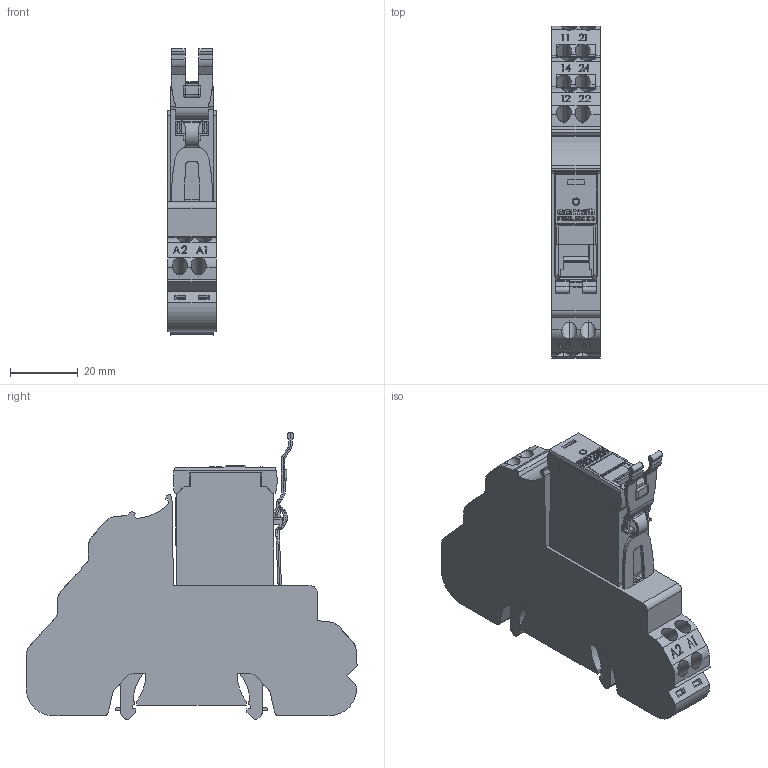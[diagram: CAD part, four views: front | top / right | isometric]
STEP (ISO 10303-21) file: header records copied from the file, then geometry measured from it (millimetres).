
FILE_DESCRIPTION (( 'STEP AP214' ), '1' );
FILE_NAME ('C12_plus_S12-PI.STEP', '2024-04-04T08:51:07', ( '' ), ( '' ), 'SwSTEP 2.0', 'SolidWorks 2022', '' );
FILE_SCHEMA (( 'AUTOMOTIVE_DESIGN' ));
Length unit declared in the file: millimetre
Products named in the file (1): C12_plus_S12-PI
Bounding box: 14.4 x 97.75 x 84.49 mm (x, y, z)
Volume: 63471.9 mm3; surface area: 20105.2 mm2
Topology: 1 solids, 1 shells, 889 faces, 2455 edges, 1612 vertices
Faces by surface type: plane 591, bspline 158, cylinder 130, cone 8, torus 2
Entity records: 40653 total; most frequent: CARTESIAN_POINT 11621, ORIENTED_EDGE 4910, DIRECTION 3559, EDGE_CURVE 2455, VECTOR 1759, LINE 1759, VERTEX_POINT 1612, EDGE_LOOP 939
